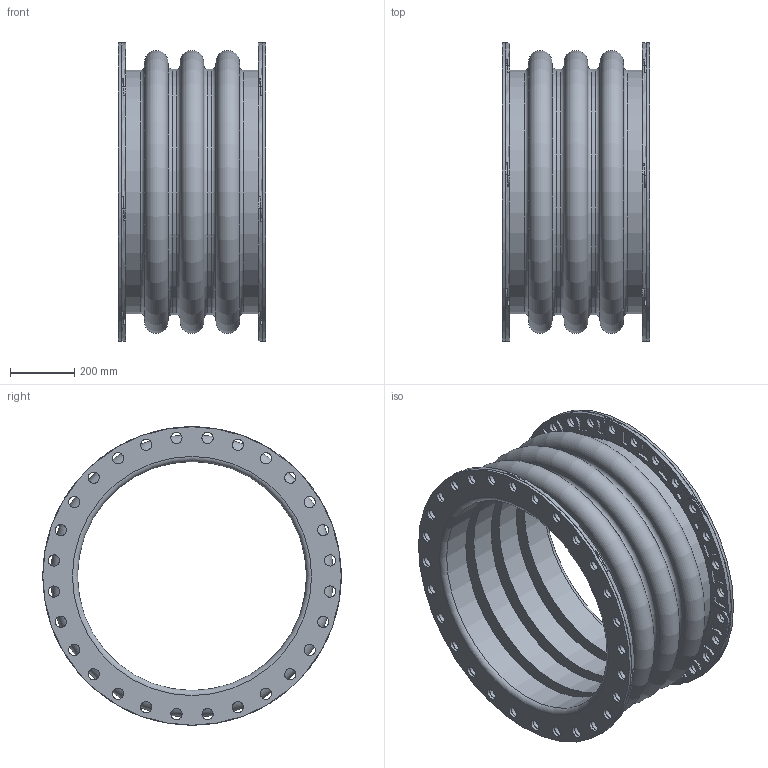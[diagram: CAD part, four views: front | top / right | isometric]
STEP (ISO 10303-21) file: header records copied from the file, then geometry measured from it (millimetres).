
FILE_DESCRIPTION(/* description */ (''),/* implementation_level */ '2;1');
FILE_NAME(/* name */ 'C:\001_Work\Designs\Mercer2014\MQInventor2014\RajR\500 Style\503\New folder\503 28IDx18FF.stp',/* time_stamp */ '2016-03-26T18:01:36-04:00',/* author */ ('rramoutar'),/* organization */ ('Mason Industries Inc.'),/* preprocessor_version */ 'ST-DEVELOPER v15.6',/* originating_system */ 'Autodesk Inventor 2015',/* authorisation */ '');
FILE_SCHEMA (('CONFIG_CONTROL_DESIGN'));
Length unit declared in the file: inch
Products named in the file (1): 503 28IDx18FF
Bounding box: 457.2 x 927.1 x 927.1 mm (x, y, z)
Volume: 47910942.1 mm3; surface area: 5564855.8 mm2
Topology: 3 solids, 3 shells, 862 faces, 2374 edges, 1572 vertices
Faces by surface type: cylinder 606, plane 200, torus 44, cone 12
Full cylindrical faces by diameter (mm): 34.925 x114, 711.2 x4, 755.65 x2, 762 x2, 771.525 x1, 927.1 x3
Entity records: 28963 total; most frequent: DIRECTION 5266, CARTESIAN_POINT 5057, ORIENTED_EDGE 4408, AXIS2_PLACEMENT_3D 2241, EDGE_CURVE 2204, VERTEX_POINT 1556, CIRCLE 1378, EDGE_LOOP 1300
